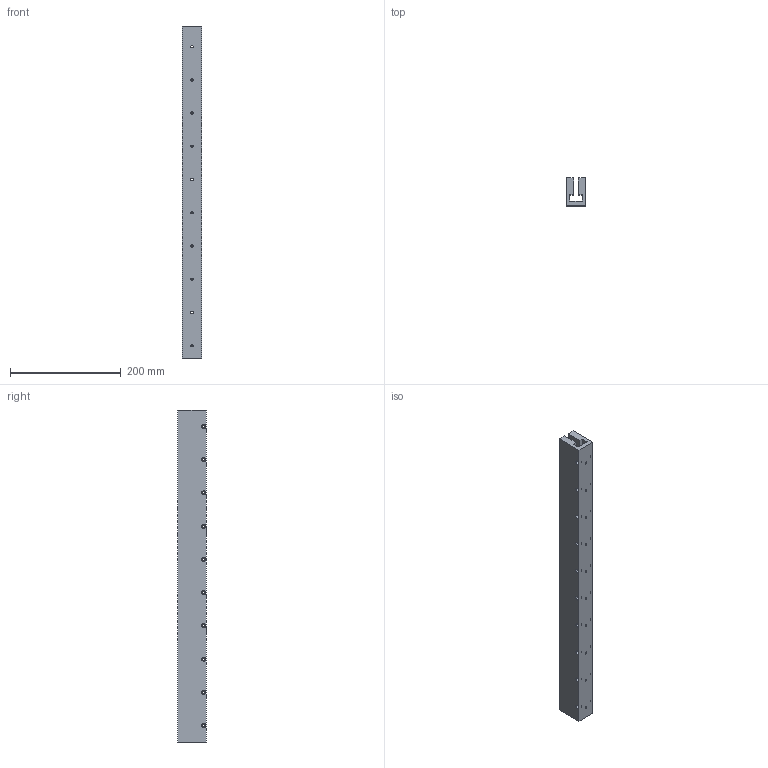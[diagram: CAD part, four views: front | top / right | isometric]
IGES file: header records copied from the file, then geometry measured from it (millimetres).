
Start section: SolidWorks IGES file using analytic representation for surfaces
Bounding box: 35.7 x 50.8 x 599.5 mm (x, y, z)
Surface area: 180253.2 mm2 (no closed solid volume)
Topology: 0 solids, 0 shells, 118 faces, 2976 edges, 2976 vertices
Faces by surface type: revolution 80, bspline 38
